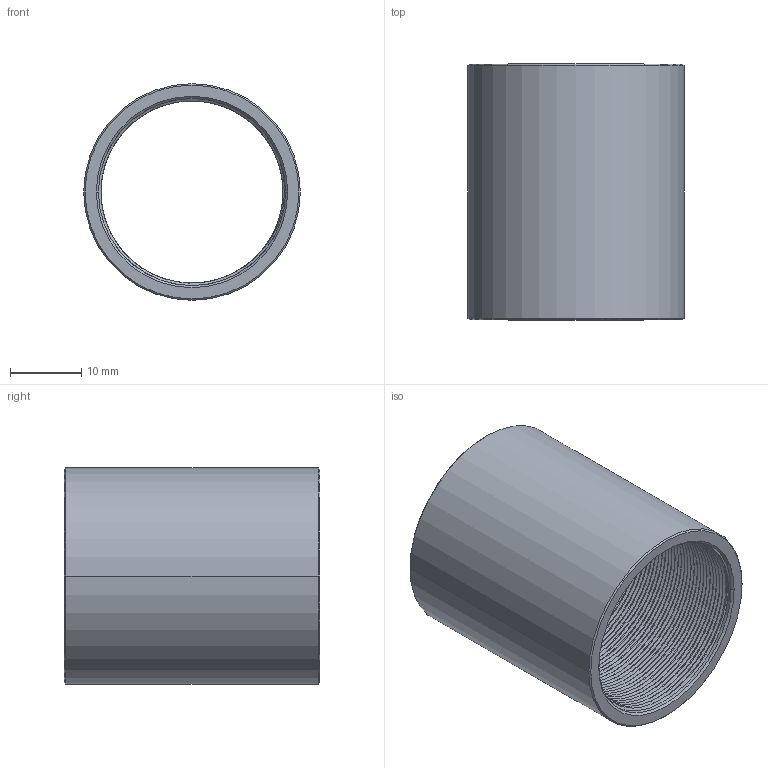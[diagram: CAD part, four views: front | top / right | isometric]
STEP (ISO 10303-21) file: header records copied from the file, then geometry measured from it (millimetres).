
FILE_DESCRIPTION((''),'2;1');
FILE_NAME('CSB-36','2020-10-15T',('Administrator'),(''),'CREO PARAMETRIC BY PTC INC, 2015290','CREO PARAMETRIC BY PTC INC, 2015290','');
FILE_SCHEMA(('CONFIG_CONTROL_DESIGN'));
Length unit declared in the file: millimetre
Products named in the file (1): CSB-36
Bounding box: 30.5 x 36 x 30.5 mm (x, y, z)
Volume: 7045 mm3; surface area: 8301.2 mm2
Topology: 1 solids, 1 shells, 153 faces, 430 edges, 279 vertices
Faces by surface type: cylinder 111, bspline 32, cone 8, plane 2
Entity records: 18968 total; most frequent: CARTESIAN_POINT 15596, ORIENTED_EDGE 860, EDGE_CURVE 430, DIRECTION 424, VERTEX_POINT 279, B_SPLINE_CURVE_WITH_KNOTS 264, EDGE_LOOP 155, FACE_OUTER_BOUND 153
